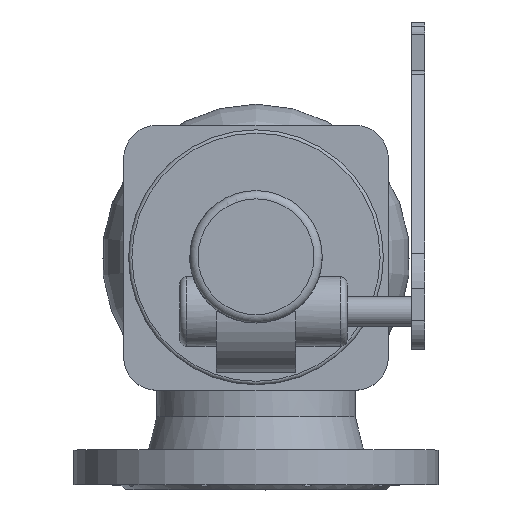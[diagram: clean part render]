
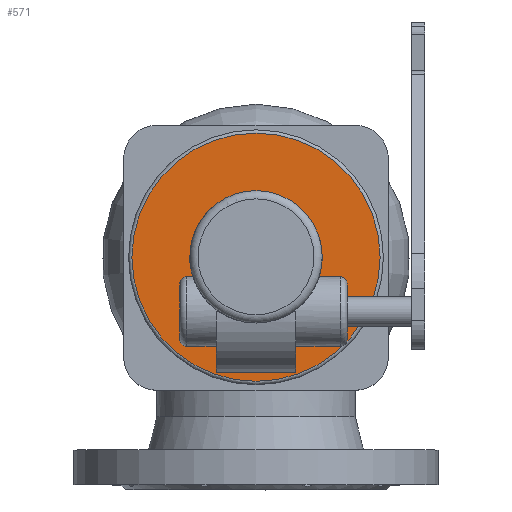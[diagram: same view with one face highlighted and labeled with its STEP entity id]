
A CAD part, top view. The second image highlights one B-rep face of the part: STEP entity #571.
In plain terms, the highlighted planar face has unit normal (0, 0, 1).
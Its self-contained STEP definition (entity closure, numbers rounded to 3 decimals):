
#571=ADVANCED_FACE('',(#1782,#1784),#1786,.T.);
#1782=FACE_BOUND('',#1783,.T.);
#1783=EDGE_LOOP('',(#2897,#2898));
#1784=FACE_BOUND('',#1785,.T.);
#1785=EDGE_LOOP('',(#2899,#2900,#2901,#2902,#2903));
#1786=PLANE('',#1787);
#1787=AXIS2_PLACEMENT_3D('',#1788,#1789,#1790);
#1788=CARTESIAN_POINT('',(0.,0.,451.));
#1789=DIRECTION('',(0.,0.,1.));
#1790=DIRECTION('',(0.,-1.,0.));
#2897=ORIENTED_EDGE('',*,*,#3546,.T.);
#2898=ORIENTED_EDGE('',*,*,#3547,.T.);
#2899=ORIENTED_EDGE('',*,*,#3570,.F.);
#2900=ORIENTED_EDGE('',*,*,#3571,.F.);
#2901=ORIENTED_EDGE('',*,*,#3572,.F.);
#2902=ORIENTED_EDGE('',*,*,#3573,.F.);
#2903=ORIENTED_EDGE('',*,*,#3574,.F.);
#3546=EDGE_CURVE('',#4062,#4063,#4064,.T.);
#3547=EDGE_CURVE('',#4063,#4062,#4065,.T.);
#3570=EDGE_CURVE('',#4110,#4111,#4112,.T.);
#3571=EDGE_CURVE('',#4113,#4110,#4114,.F.);
#3572=EDGE_CURVE('',#4115,#4113,#4116,.T.);
#3573=EDGE_CURVE('',#4117,#4115,#4118,.T.);
#3574=EDGE_CURVE('',#4111,#4117,#4119,.T.);
#4062=VERTEX_POINT('',#5997);
#4063=VERTEX_POINT('',#5998);
#4064=CIRCLE('',#5999,75.);
#4065=CIRCLE('',#6003,75.);
#4110=VERTEX_POINT('',#6115);
#4111=VERTEX_POINT('',#6116);
#4112=LINE('',#6117,#6118);
#4113=VERTEX_POINT('',#6120);
#4114=LINE('',#6121,#6122);
#4115=VERTEX_POINT('',#6124);
#4116=CIRCLE('',#6125,40.);
#4117=VERTEX_POINT('',#6129);
#4118=CIRCLE('',#6130,40.);
#4119=LINE('',#6134,#6135);
#5997=CARTESIAN_POINT('',(0.,-75.,451.));
#5998=CARTESIAN_POINT('',(0.,75.,451.));
#5999=AXIS2_PLACEMENT_3D('',#6000,#6001,#6002);
#6000=CARTESIAN_POINT('',(0.,0.,451.));
#6001=DIRECTION('',(0.,0.,1.));
#6002=DIRECTION('',(0.,-1.,0.));
#6003=AXIS2_PLACEMENT_3D('',#6004,#6005,#6006);
#6004=CARTESIAN_POINT('',(0.,0.,451.));
#6005=DIRECTION('',(0.,0.,1.));
#6006=DIRECTION('',(0.,1.,0.));
#6115=CARTESIAN_POINT('',(-6.,-63.34,451.));
#6116=CARTESIAN_POINT('',(6.,-63.34,451.));
#6117=CARTESIAN_POINT('',(-6.,-63.34,451.));
#6118=VECTOR('',#6119,1.);
#6119=DIRECTION('',(1.,0.,0.));
#6120=CARTESIAN_POINT('',(-6.,-39.547,451.));
#6121=CARTESIAN_POINT('',(-6.,-63.34,451.));
#6122=VECTOR('',#6123,1.);
#6123=DIRECTION('',(0.,1.,0.));
#6124=CARTESIAN_POINT('',(-23.664,32.249,451.));
#6125=AXIS2_PLACEMENT_3D('',#6126,#6127,#6128);
#6126=CARTESIAN_POINT('',(0.,0.,451.));
#6127=DIRECTION('',(0.,0.,1.));
#6128=DIRECTION('',(-0.592,0.806,0.));
#6129=CARTESIAN_POINT('',(6.,-39.547,451.));
#6130=AXIS2_PLACEMENT_3D('',#6131,#6132,#6133);
#6131=CARTESIAN_POINT('',(0.,0.,451.));
#6132=DIRECTION('',(0.,0.,1.));
#6133=DIRECTION('',(0.15,-0.989,0.));
#6134=CARTESIAN_POINT('',(6.,-63.34,451.));
#6135=VECTOR('',#6136,1.);
#6136=DIRECTION('',(0.,1.,0.));
